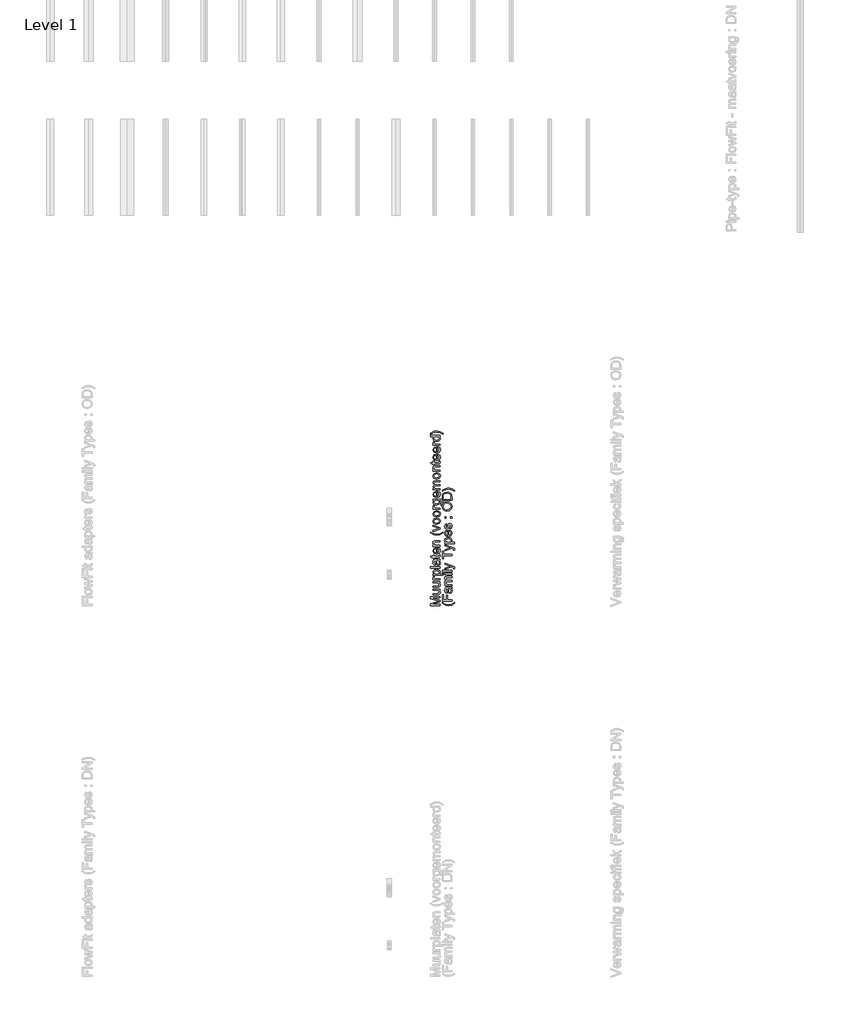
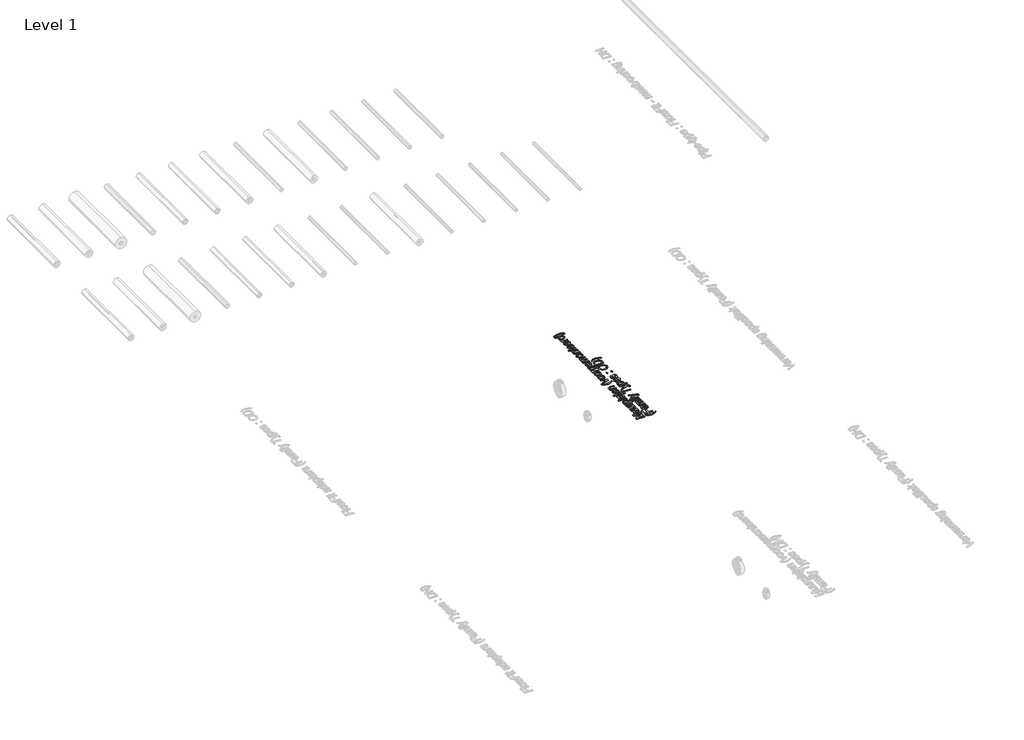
# One storey, part 8 of 11: 1 proxy.
"""IFC4 building model written with IfcOpenShell, lengths in millimetres."""

from ifc_helpers import new_model, si_unit, origin, origin_with_axes, place, context, project, spatial, polyline, outline, extrude, element, save

model = new_model("IFC4")

# Units and contexts
model_context = context("Model", 3, world=origin())
ifc_project = project(units=[si_unit("LENGTHUNIT", "METRE", prefix="MILLI")], contexts=[model_context])

# Site, building, storey
site = spatial("IfcSite", under=ifc_project)
building = spatial("IfcBuilding", under=site)
storey = spatial("IfcBuildingStorey", under=building, Name="Level 1", Elevation=0.0)

# Proxy
placement = place(None, origin())
element("IfcBuildingElementProxy", 1, Name="S", ObjectType="S", at=placement, inside=storey, context=model_context, shape_type="SweptSolid", body=[
    extrude(outline(polyline([(2565.0, 2058.4123634), (2514.7718449, 2058.4123634), (2514.7718449, 2069.2158314), (2550.1743556, 2079.4920018), (2557.5687837, 2081.5644037), (2549.5612189, 2083.8084838), (2514.7718449, 2093.912976), (2514.7718449, 2104.7164439), (2565.0, 2104.7164439), (2565.0, 2098.4379245), (2521.0503643, 2098.4379245), (2565.0, 2085.8195721), (2565.0, 2077.3092353), (2521.0503643, 2064.6908828), (2565.0, 2064.6908828), (2565.0, 2058.4123634)])), origin_with_axes(), (0.0, 0.0, 1.0), 3.0),
    extrude(outline(polyline([(2565.0, 2138.4634856), (2558.6601669, 2138.4634856), (2564.0036529, 2133.5461296), (2565.7848149, 2127.1327201), (2564.5340161, 2121.2282141), (2561.3947564, 2117.1569867), (2556.771706, 2115.2869199), (2550.9346451, 2114.9190379), (2528.1136986, 2114.9190379), (2528.1136986, 2121.1975573), (2547.9793264, 2121.1975573), (2554.3804731, 2121.577702), (2558.1390008, 2124.0609055), (2559.5062955, 2128.7391382), (2558.108344, 2133.9814566), (2554.3007653, 2137.4456787), (2547.304876, 2138.4634856), (2528.1136986, 2138.4634856), (2528.1136986, 2144.742005), (2565.0, 2144.742005), (2565.0, 2138.4634856)])), origin_with_axes(), (0.0, 0.0, 1.0), 3.0),
    extrude(outline(polyline([(2565.0, 2176.9194168), (2558.6601669, 2176.9194168), (2564.0036529, 2172.0020608), (2565.7848149, 2165.5886514), (2564.5340161, 2159.6841453), (2561.3947564, 2155.6129179), (2556.771706, 2153.7428511), (2550.9346451, 2153.3749691), (2528.1136986, 2153.3749691), (2528.1136986, 2159.6534885), (2547.9793264, 2159.6534885), (2554.3804731, 2160.0336332), (2558.1390008, 2162.5168367), (2559.5062955, 2167.1950694), (2558.108344, 2172.4373878), (2554.3007653, 2175.90161), (2547.304876, 2176.9194168), (2528.1136986, 2176.9194168), (2528.1136986, 2183.1979362), (2565.0, 2183.1979362), (2565.0, 2176.9194168)])), origin_with_axes(), (0.0, 0.0, 1.0), 3.0),
    extrude(outline(polyline([(2565.0, 2191.8309004), (2528.1136986, 2191.8309004), (2528.1136986, 2197.3246048), (2533.5706149, 2197.3246048), (2528.5428943, 2201.224154), (2527.3288837, 2205.1482286), (2529.2663955, 2211.4512734), (2534.8949901, 2209.3543461), (2533.6074031, 2204.9397621), (2534.8459391, 2201.3897009), (2538.2795044, 2199.1272266), (2545.6126189, 2198.1094197), (2565.0, 2198.1094197), (2565.0, 2191.8309004)])), origin_with_axes(), (0.0, 0.0, 1.0), 3.0),
    extrude(outline(polyline([(2579.1266686, 2215.375348), (2528.1136986, 2215.375348), (2528.1136986, 2221.6538674), (2534.2695907, 2221.6538674), (2529.0640604, 2225.994875), (2527.3288837, 2231.8564614), (2529.7569049, 2239.8149753), (2536.59951, 2245.0143741), (2546.2748064, 2246.767945), (2556.4467436, 2244.7875136), (2563.3751879, 2239.0362917), (2565.7848149, 2231.096172), (2564.1722655, 2225.6331243), (2560.0949067, 2221.6538674), (2579.1266686, 2221.6538674), (2579.1266686, 2215.375348)]), holes=[polyline([(2546.8511549, 2221.6538674), (2556.4160868, 2224.3700628), (2559.5062955, 2230.9612819), (2556.3057222, 2237.6873911), (2546.385171, 2240.4894256), (2536.7957137, 2237.7548361), (2533.6074031, 2231.2187993), (2536.9980488, 2224.5540038), (2546.8511549, 2221.6538674)])]), origin_with_axes(), (0.0, 0.0, 1.0), 3.0),
    extrude(outline(polyline([(2565.0, 2253.8312793), (2514.7718449, 2253.8312793), (2514.7718449, 2260.1097987), (2565.0, 2260.1097987), (2565.0, 2253.8312793)])), origin_with_axes(), (0.0, 0.0, 1.0), 3.0),
    extrude(outline(polyline([(2560.2911105, 2293.0720254), (2564.5462789, 2286.9835784), (2565.7848149, 2280.2574693), (2562.8049708, 2271.1401271), (2555.1898135, 2267.9579479), (2550.2234065, 2269.1596957), (2546.618163, 2272.3173495), (2544.5580238, 2276.7135394), (2543.6137933, 2282.1459302), (2541.4555523, 2293.0352372), (2535.4222876, 2291.34298), (2533.6074031, 2284.4022731), (2534.8152823, 2278.0501773), (2539.1011075, 2275.0212822), (2538.3162926, 2268.7427628), (2532.184926, 2271.4589582), (2528.5919452, 2276.9281372), (2527.3288837, 2285.2116135), (2528.4447924, 2292.8206394), (2531.2468269, 2297.1187274), (2535.5081267, 2299.0439765), (2541.0018312, 2299.3505448), (2548.8131922, 2299.3505448), (2559.7208934, 2299.6693759), (2565.0, 2300.9201747), (2565.0, 2294.6416553), (2560.2911105, 2293.0720254)]), holes=[polyline([(2547.7340717, 2293.0720254), (2549.6593208, 2282.9430078), (2550.6771277, 2277.5412739), (2552.3325966, 2275.0948586), (2554.7483551, 2274.2364673), (2558.1451322, 2276.1065341), (2559.5062955, 2281.5941072), (2558.0041107, 2287.946203), (2554.3682103, 2292.0419558), (2549.512168, 2293.0352372), (2547.7340717, 2293.0720254)])]), origin_with_axes(), (0.0, 0.0, 1.0), 3.0),
    extrude(outline(polyline([(2559.7638129, 2321.3253627), (2565.183941, 2322.1101776), (2565.7848149, 2317.4135508), (2564.7424826, 2312.1528382), (2562.0078931, 2309.5286133), (2554.8832451, 2308.7683239), (2534.392218, 2308.7683239), (2534.392218, 2304.0594343), (2528.1136986, 2304.0594343), (2528.1136986, 2308.7683239), (2519.1496407, 2308.7683239), (2515.458558, 2315.0468433), (2528.1136986, 2315.0468433), (2528.1136986, 2321.3253627), (2534.392218, 2321.3253627), (2534.392218, 2315.0468433), (2554.6993041, 2315.0468433), (2557.9366657, 2315.3779371), (2559.5062955, 2318.5907732), (2559.7638129, 2321.3253627)])), origin_with_axes(), (0.0, 0.0, 1.0), 3.0),
    extrude(outline(polyline([(2554.0125911, 2353.4291981), (2554.797406, 2359.5850902), (2562.9030726, 2353.8277369), (2565.7848149, 2343.1039768), (2560.8122766, 2330.0686914), (2546.8634176, 2325.2494373), (2532.4547062, 2330.1177423), (2527.3288837, 2342.7483575), (2532.4424434, 2355.017222), (2546.8266294, 2359.7812939), (2548.5188866, 2359.7445057), (2548.5188866, 2331.5279567), (2556.6736042, 2335.1393316), (2559.5062955, 2343.2266041), (2558.1941831, 2349.3824962), (2554.0125911, 2353.4291981)]), holes=[polyline([(2542.2403672, 2331.5279567), (2542.2403672, 2353.5027745), (2536.550459, 2350.9889142), (2533.6074031, 2342.723832), (2535.9557165, 2334.9921788), (2542.2403672, 2331.5279567)])]), origin_with_axes(), (0.0, 0.0, 1.0), 3.0),
    extrude(outline(polyline([(2565.0, 2366.0598133), (2528.1136986, 2366.0598133), (2528.1136986, 2372.3383327), (2533.2640465, 2372.3383327), (2528.8126744, 2377.1391927), (2527.3288837, 2383.6936236), (2528.5245002, 2389.6226551), (2531.6637599, 2393.669357), (2536.2806789, 2395.5516865), (2542.3507318, 2395.8827803), (2565.0, 2395.8827803), (2565.0, 2389.604261), (2543.1968604, 2389.604261), (2537.6418423, 2388.8807597), (2534.7049177, 2386.3239798), (2533.6074031, 2382.0136291), (2536.0722124, 2375.2016808), (2545.4286779, 2372.3383327), (2565.0, 2372.3383327), (2565.0, 2366.0598133)])), origin_with_axes(), (0.0, 0.0, 1.0), 3.0),
    extrude(outline(polyline([(2579.1266686, 2436.6931563), (2564.3991261, 2427.7781493), (2546.9124686, 2424.1361176), (2531.6453658, 2426.8584443), (2514.7718449, 2436.6931563), (2514.7718449, 2441.4020459), (2524.7169215, 2435.5281967), (2534.3554298, 2431.9965295), (2546.9492568, 2430.414637), (2563.0440941, 2433.1614892), (2579.1266686, 2441.4020459), (2579.1266686, 2436.6931563)])), origin_with_axes(), (0.0, 0.0, 1.0), 3.0),
    extrude(outline(polyline([(2565.0, 2456.7304623), (2528.1136986, 2443.7564907), (2528.1136986, 2450.402892), (2550.2111438, 2458.263304), (2557.6423601, 2460.6300115), (2550.6280767, 2462.9476681), (2528.1136986, 2470.857131), (2528.1136986, 2477.5035323), (2565.0, 2464.6889762), (2565.0, 2456.7304623)])), origin_with_axes(), (0.0, 0.0, 1.0), 3.0),
    extrude(outline(polyline([(2546.5568493, 2481.427607), (2537.6633021, 2482.7857047), (2531.4123738, 2486.8599978), (2527.3288837, 2497.9209831), (2532.301422, 2509.7851774), (2546.0418145, 2514.3898337), (2557.2131644, 2512.35422), (2563.5346034, 2506.4251885), (2565.7848149, 2497.9209831), (2560.8306707, 2485.9832123), (2546.5568493, 2481.427607)]), holes=[polyline([(2546.5445866, 2487.7061263), (2556.2750653, 2490.6123941), (2559.5062955, 2497.9209831), (2556.2566712, 2505.2050466), (2546.3483828, 2508.1113143), (2536.8386333, 2505.1866525), (2533.6074031, 2497.9209831), (2536.8263705, 2490.6123941), (2546.5445866, 2487.7061263)])]), origin_with_axes(), (0.0, 0.0, 1.0), 3.0),
    extrude(outline(polyline([(2546.5568493, 2519.8835382), (2537.6633021, 2521.2416359), (2531.4123738, 2525.315929), (2527.3288837, 2536.3769143), (2532.301422, 2548.2411086), (2546.0418145, 2552.845765), (2557.2131644, 2550.8101512), (2563.5346034, 2544.8811198), (2565.7848149, 2536.3769143), (2560.8306707, 2524.4391436), (2546.5568493, 2519.8835382)]), holes=[polyline([(2546.5445866, 2526.1620576), (2556.2750653, 2529.0683253), (2559.5062955, 2536.3769143), (2556.2566712, 2543.6609778), (2546.3483828, 2546.5672456), (2536.8386333, 2543.6425837), (2533.6074031, 2536.3769143), (2536.8263705, 2529.0683253), (2546.5445866, 2526.1620576)])]), origin_with_axes(), (0.0, 0.0, 1.0), 3.0),
    extrude(outline(polyline([(2565.0, 2559.9090993), (2528.1136986, 2559.9090993), (2528.1136986, 2565.4028037), (2533.5706149, 2565.4028037), (2528.5428943, 2569.3023529), (2527.3288837, 2573.2264275), (2529.2663955, 2579.5294723), (2534.8949901, 2577.432545), (2533.6074031, 2573.017961), (2534.8459391, 2569.4678998), (2538.2795044, 2567.2054255), (2545.6126189, 2566.1876186), (2565.0, 2566.1876186), (2565.0, 2559.9090993)])), origin_with_axes(), (0.0, 0.0, 1.0), 3.0),
    extrude(outline(polyline([(2568.1392597, 2581.8839171), (2568.9240746, 2588.1624365), (2572.2350126, 2590.1980502), (2573.6329642, 2596.2926286), (2572.0510716, 2602.7183008), (2567.6119622, 2605.7839841), (2560.2911105, 2606.2131797), (2565.0, 2596.4029932), (2563.6296396, 2589.9298029), (2559.5185583, 2585.1028846), (2546.3729083, 2581.0991022), (2536.6424295, 2582.8955926), (2529.7569049, 2588.0949915), (2527.3288837, 2596.0964249), (2532.8225882, 2606.2131797), (2528.1136986, 2606.2131797), (2528.1136986, 2612.4916991), (2559.9600167, 2612.4916991), (2572.1553048, 2610.7749165), (2577.8268189, 2605.3363943), (2579.9114835, 2596.1700013), (2576.9745589, 2585.728284), (2568.1392597, 2581.8839171)]), holes=[polyline([(2545.9437126, 2587.3776216), (2555.6619287, 2590.0570288), (2558.7214806, 2596.7831379), (2555.6803228, 2603.4969843), (2546.1276536, 2606.2131797), (2536.7650569, 2603.4172766), (2533.6074031, 2596.685036), (2536.7160059, 2590.093817), (2545.9437126, 2587.3776216)])]), origin_with_axes(), (0.0, 0.0, 1.0), 3.0),
    extrude(outline(polyline([(2554.0125911, 2647.7347942), (2554.797406, 2653.8906863), (2562.9030726, 2648.1333331), (2565.7848149, 2637.4095729), (2560.8122766, 2624.3742875), (2546.8634176, 2619.5550334), (2532.4547062, 2624.4233385), (2527.3288837, 2637.0539536), (2532.4424434, 2649.3228182), (2546.8266294, 2654.08689), (2548.5188866, 2654.0501018), (2548.5188866, 2625.8335528), (2556.6736042, 2629.4449277), (2559.5062955, 2637.5322002), (2558.1941831, 2643.6880923), (2554.0125911, 2647.7347942)]), holes=[polyline([(2542.2403672, 2625.8335528), (2542.2403672, 2647.8083706), (2536.550459, 2645.2945103), (2533.6074031, 2637.0294282), (2535.9557165, 2629.2977749), (2542.2403672, 2625.8335528)])]), origin_with_axes(), (0.0, 0.0, 1.0), 3.0),
    extrude(outline(polyline([(2565.0, 2660.3654094), (2528.1136986, 2660.3654094), (2528.1136986, 2666.6439288), (2534.1837515, 2666.6439288), (2529.2112132, 2670.9604109), (2527.3288837, 2677.1040402), (2529.2480014, 2683.3948223), (2534.6252099, 2686.8529131), (2529.1529653, 2691.751875), (2527.3288837, 2697.9384239), (2530.3639102, 2706.1483237), (2539.7142442, 2709.0239346), (2565.0, 2709.0239346), (2565.0, 2702.7454153), (2542.4120455, 2702.7454153), (2537.1697271, 2702.1629354), (2534.5884217, 2700.0537453), (2533.6074031, 2696.4668959), (2536.1212634, 2690.2926097), (2544.1778791, 2687.8339317), (2565.0, 2687.8339317), (2565.0, 2681.5554123), (2541.7130697, 2681.5554123), (2535.6307541, 2680.1022785), (2533.6074031, 2675.3382066), (2534.9563037, 2670.6906307), (2538.9049038, 2667.600422), (2546.3974338, 2666.6439288), (2565.0, 2666.6439288), (2565.0, 2660.3654094)])), origin_with_axes(), (0.0, 0.0, 1.0), 3.0),
    extrude(outline(polyline([(2546.5568493, 2716.8720839), (2537.6633021, 2718.2301816), (2531.4123738, 2722.3044747), (2527.3288837, 2733.36546), (2532.301422, 2745.2296543), (2546.0418145, 2749.8343106), (2557.2131644, 2747.7986969), (2563.5346034, 2741.8696654), (2565.7848149, 2733.36546), (2560.8306707, 2721.4276892), (2546.5568493, 2716.8720839)]), holes=[polyline([(2546.5445866, 2723.1506033), (2556.2750653, 2726.056871), (2559.5062955, 2733.36546), (2556.2566712, 2740.6495235), (2546.3483828, 2743.5557913), (2536.8386333, 2740.6311294), (2533.6074031, 2733.36546), (2536.8263705, 2726.056871), (2546.5445866, 2723.1506033)])]), origin_with_axes(), (0.0, 0.0, 1.0), 3.0),
    extrude(outline(polyline([(2565.0, 2756.8976449), (2528.1136986, 2756.8976449), (2528.1136986, 2763.1761643), (2533.2640465, 2763.1761643), (2528.8126744, 2767.9770244), (2527.3288837, 2774.5314552), (2528.5245002, 2780.4604867), (2531.6637599, 2784.5071887), (2536.2806789, 2786.3895182), (2542.3507318, 2786.720612), (2565.0, 2786.720612), (2565.0, 2780.4420926), (2543.1968604, 2780.4420926), (2537.6418423, 2779.7185914), (2534.7049177, 2777.1618115), (2533.6074031, 2772.8514608), (2536.0722124, 2766.0395125), (2545.4286779, 2763.1761643), (2565.0, 2763.1761643), (2565.0, 2756.8976449)])), origin_with_axes(), (0.0, 0.0, 1.0), 3.0),
    extrude(outline(polyline([(2559.7638129, 2808.6954299), (2565.183941, 2809.4802448), (2565.7848149, 2804.783618), (2564.7424826, 2799.5229055), (2562.0078931, 2796.8986806), (2554.8832451, 2796.1383911), (2534.392218, 2796.1383911), (2534.392218, 2791.4295016), (2528.1136986, 2791.4295016), (2528.1136986, 2796.1383911), (2519.1496407, 2796.1383911), (2515.458558, 2802.4169105), (2528.1136986, 2802.4169105), (2528.1136986, 2808.6954299), (2534.392218, 2808.6954299), (2534.392218, 2802.4169105), (2554.6993041, 2802.4169105), (2557.9366657, 2802.7480043), (2559.5062955, 2805.9608404), (2559.7638129, 2808.6954299)])), origin_with_axes(), (0.0, 0.0, 1.0), 3.0),
    extrude(outline(polyline([(2554.0125911, 2840.7992653), (2554.797406, 2846.9551574), (2562.9030726, 2841.1978041), (2565.7848149, 2830.474044), (2560.8122766, 2817.4387586), (2546.8634176, 2812.6195045), (2532.4547062, 2817.4878096), (2527.3288837, 2830.1184247), (2532.4424434, 2842.3872893), (2546.8266294, 2847.1513611), (2548.5188866, 2847.1145729), (2548.5188866, 2818.8980239), (2556.6736042, 2822.5093988), (2559.5062955, 2830.5966713), (2558.1941831, 2836.7525634), (2554.0125911, 2840.7992653)]), holes=[polyline([(2542.2403672, 2818.8980239), (2542.2403672, 2840.8728417), (2536.550459, 2838.3589814), (2533.6074031, 2830.0938993), (2535.9557165, 2822.362246), (2542.2403672, 2818.8980239)])]), origin_with_axes(), (0.0, 0.0, 1.0), 3.0),
    extrude(outline(polyline([(2554.0125911, 2879.2551965), (2554.797406, 2885.4110886), (2562.9030726, 2879.6537354), (2565.7848149, 2868.9299752), (2560.8122766, 2855.8946898), (2546.8634176, 2851.0754357), (2532.4547062, 2855.9437408), (2527.3288837, 2868.5743559), (2532.4424434, 2880.8432205), (2546.8266294, 2885.6072923), (2548.5188866, 2885.5705041), (2548.5188866, 2857.3539551), (2556.6736042, 2860.96533), (2559.5062955, 2869.0526025), (2558.1941831, 2875.2084946), (2554.0125911, 2879.2551965)]), holes=[polyline([(2542.2403672, 2857.3539551), (2542.2403672, 2879.3287729), (2536.550459, 2876.8149126), (2533.6074031, 2868.5498305), (2535.9557165, 2860.8181772), (2542.2403672, 2857.3539551)])]), origin_with_axes(), (0.0, 0.0, 1.0), 3.0),
    extrude(outline(polyline([(2565.0, 2891.8858117), (2528.1136986, 2891.8858117), (2528.1136986, 2897.3795162), (2533.5706149, 2897.3795162), (2528.5428943, 2901.2790653), (2527.3288837, 2905.2031399), (2529.2663955, 2911.5061848), (2534.8949901, 2909.4092574), (2533.6074031, 2904.9946735), (2534.8459391, 2901.4446122), (2538.2795044, 2899.1821379), (2545.6126189, 2898.1643311), (2565.0, 2898.1643311), (2565.0, 2891.8858117)])), origin_with_axes(), (0.0, 0.0, 1.0), 3.0),
    extrude(outline(polyline([(2565.0, 2938.1898922), (2559.0770999, 2938.1898922), (2564.1078862, 2934.0358913), (2565.7848149, 2928.2938665), (2563.3567938, 2920.5192937), (2556.5816337, 2915.0255892), (2546.5936375, 2913.0758146), (2536.59951, 2914.872305), (2529.7201167, 2920.2556449), (2527.3288837, 2928.269341), (2529.039535, 2934.0573511), (2533.4847757, 2938.1898922), (2514.7718449, 2938.1898922), (2514.7718449, 2944.4684116), (2565.0, 2944.4684116), (2565.0, 2938.1898922)]), holes=[polyline([(2546.569112, 2919.354334), (2556.2873281, 2922.1870254), (2559.5062955, 2928.870215), (2556.4344809, 2935.4736968), (2547.0473586, 2938.1898922), (2536.8570274, 2935.4246458), (2533.6074031, 2928.6126976), (2536.7282687, 2922.0030844), (2546.569112, 2919.354334)])]), origin_with_axes(), (0.0, 0.0, 1.0), 3.0),
    extrude(outline(polyline([(2579.1266686, 2955.4558205), (2579.1266686, 2950.7469309), (2563.0440941, 2958.9874876), (2546.9492568, 2961.7343399), (2534.4657944, 2960.1524473), (2524.8150234, 2956.6575683), (2514.7718449, 2950.7469309), (2514.7718449, 2955.4558205), (2531.6453658, 2965.2905325), (2546.9124686, 2968.0128592), (2564.3991261, 2964.3524334), (2579.1266686, 2955.4558205)])), origin_with_axes(), (0.0, 0.0, 1.0), 3.0),
    extrude(outline(polyline([(2640.1140775, 2070.1845873), (2625.386535, 2061.2695803), (2607.8998775, 2057.6275485), (2592.6327747, 2060.3498753), (2575.7592538, 2070.1845873), (2575.7592538, 2074.8934768), (2585.7043305, 2069.0196276), (2595.3428387, 2065.4879605), (2607.9366657, 2063.9060679), (2624.031503, 2066.6529201), (2640.1140775, 2074.8934768), (2640.1140775, 2070.1845873)])), origin_with_axes(), (0.0, 0.0, 1.0), 3.0),
    extrude(outline(polyline([(2625.9874089, 2081.9568111), (2575.7592538, 2081.9568111), (2575.7592538, 2115.7038528), (2582.0377732, 2115.7038528), (2582.0377732, 2088.2353305), (2596.9492568, 2088.2353305), (2596.9492568, 2111.7797782), (2603.2277762, 2111.7797782), (2603.2277762, 2088.2353305), (2625.9874089, 2088.2353305), (2625.9874089, 2081.9568111)])), origin_with_axes(), (0.0, 0.0, 1.0), 3.0),
    extrude(outline(polyline([(2621.2785194, 2147.0964497), (2625.5336878, 2141.0080027), (2626.7722238, 2134.2818936), (2623.7923797, 2125.1645515), (2616.1772224, 2121.9823722), (2611.2108154, 2123.1841201), (2607.6055719, 2126.3417738), (2605.5454327, 2130.7379637), (2604.6012023, 2136.1703545), (2602.4429612, 2147.0596615), (2596.4096965, 2145.3674044), (2594.594812, 2138.4266974), (2595.8026912, 2132.0746016), (2600.0885165, 2129.0457065), (2599.3037015, 2122.7671871), (2593.172335, 2125.4833825), (2589.5793541, 2130.9525615), (2588.3162926, 2139.2360378), (2589.4322013, 2146.8450637), (2592.2342359, 2151.1431517), (2596.4955356, 2153.0684008), (2601.9892401, 2153.3749691), (2609.8006011, 2153.3749691), (2620.7083023, 2153.6938002), (2625.9874089, 2154.944599), (2625.9874089, 2148.6660796), (2621.2785194, 2147.0964497)]), holes=[polyline([(2608.7214806, 2147.0964497), (2610.6467297, 2136.9674321), (2611.6645366, 2131.5656982), (2613.3200056, 2129.1192829), (2615.735764, 2128.2608916), (2619.1325411, 2130.1309584), (2620.4937045, 2135.6185315), (2618.9915196, 2141.9706273), (2615.3556193, 2146.0663802), (2610.4995769, 2147.0596615), (2608.7214806, 2147.0964497)])]), origin_with_axes(), (0.0, 0.0, 1.0), 3.0),
    extrude(outline(polyline([(2625.9874089, 2162.0079333), (2589.1011075, 2162.0079333), (2589.1011075, 2168.2864527), (2595.1711605, 2168.2864527), (2590.1986222, 2172.6029347), (2588.3162926, 2178.7465641), (2590.2354104, 2185.0373462), (2595.6126189, 2188.4954369), (2590.1403742, 2193.3943988), (2588.3162926, 2199.5809477), (2591.3513191, 2207.7908476), (2600.7016531, 2210.6664585), (2625.9874089, 2210.6664585), (2625.9874089, 2204.3879391), (2603.3994544, 2204.3879391), (2598.157136, 2203.8054593), (2595.5758307, 2201.6962692), (2594.594812, 2198.1094197), (2597.1086723, 2191.9351336), (2605.165288, 2189.4764556), (2625.9874089, 2189.4764556), (2625.9874089, 2183.1979362), (2602.7004786, 2183.1979362), (2596.618163, 2181.7448023), (2594.594812, 2176.9807305), (2595.9437126, 2172.3331546), (2599.8923127, 2169.2429458), (2607.3848427, 2168.2864527), (2625.9874089, 2168.2864527), (2625.9874089, 2162.0079333)])), origin_with_axes(), (0.0, 0.0, 1.0), 3.0),
    extrude(outline(polyline([(2582.0377732, 2220.0842376), (2575.7592538, 2220.0842376), (2575.7592538, 2226.362757), (2582.0377732, 2226.362757), (2582.0377732, 2220.0842376)])), origin_with_axes(), (0.0, 0.0, 1.0), 3.0),
    extrude(outline(polyline([(2625.9874089, 2220.0842376), (2589.1011075, 2220.0842376), (2589.1011075, 2226.362757), (2625.9874089, 2226.362757), (2625.9874089, 2220.0842376)])), origin_with_axes(), (0.0, 0.0, 1.0), 3.0),
    extrude(outline(polyline([(2625.9874089, 2235.780536), (2575.7592538, 2235.780536), (2575.7592538, 2242.0590554), (2625.9874089, 2242.0590554), (2625.9874089, 2235.780536)])), origin_with_axes(), (0.0, 0.0, 1.0), 3.0),
    extrude(outline(polyline([(2640.1140775, 2251.4768345), (2634.0685501, 2250.6920196), (2634.6203731, 2253.8803302), (2633.9275287, 2256.8601744), (2631.9961482, 2258.6873216), (2627.3730978, 2260.4041043), (2625.8525189, 2260.8946136), (2589.1011075, 2247.5527599), (2589.1011075, 2254.1746358), (2609.5798719, 2261.2502328), (2617.7713777, 2263.7150422), (2610.5363651, 2266.1798516), (2589.1011075, 2273.4516523), (2589.1011075, 2280.0244773), (2626.8703257, 2267.1853957), (2635.0618315, 2263.8499323), (2639.4886781, 2260.2079005), (2640.8988925, 2255.31507), (2640.1140775, 2251.4768345)])), origin_with_axes(), (0.0, 0.0, 1.0), 3.0),
    extrude(outline(polyline([(2625.9874089, 2318.186103), (2582.0377732, 2318.186103), (2582.0377732, 2301.7049896), (2575.7592538, 2301.7049896), (2575.7592538, 2340.9457357), (2582.0377732, 2340.9457357), (2582.0377732, 2324.4646223), (2625.9874089, 2324.4646223), (2625.9874089, 2318.186103)])), origin_with_axes(), (0.0, 0.0, 1.0), 3.0),
    extrude(outline(polyline([(2640.1140775, 2347.2242551), (2634.0685501, 2346.4394402), (2634.6203731, 2349.6277508), (2633.9275287, 2352.607595), (2631.9961482, 2354.4347422), (2627.3730978, 2356.1515249), (2625.8525189, 2356.6420342), (2589.1011075, 2343.3001805), (2589.1011075, 2349.9220564), (2609.5798719, 2356.9976535), (2617.7713777, 2359.4624628), (2610.5363651, 2361.9272722), (2589.1011075, 2369.199073), (2589.1011075, 2375.7718979), (2626.8703257, 2362.9328163), (2635.0618315, 2359.5973529), (2639.4886781, 2355.9553211), (2640.8988925, 2351.0624906), (2640.1140775, 2347.2242551)])), origin_with_axes(), (0.0, 0.0, 1.0), 3.0),
    extrude(outline(polyline([(2640.1140775, 2380.9712968), (2589.1011075, 2380.9712968), (2589.1011075, 2387.2498162), (2595.2569996, 2387.2498162), (2590.0514694, 2391.5908237), (2588.3162926, 2397.4524102), (2590.7443138, 2405.410924), (2597.5869189, 2410.6103229), (2607.2622154, 2412.3638937), (2617.4341525, 2410.3834623), (2624.3625968, 2404.6322405), (2626.7722238, 2396.6921207), (2625.1596744, 2391.2290731), (2621.0823157, 2387.2498162), (2640.1140775, 2387.2498162), (2640.1140775, 2380.9712968)]), holes=[polyline([(2607.8385638, 2387.2498162), (2617.4034957, 2389.9660116), (2620.4937045, 2396.5572307), (2617.2931311, 2403.2833398), (2607.37258, 2406.0853743), (2597.7831226, 2403.3507848), (2594.594812, 2396.8147481), (2597.9854577, 2390.1499526), (2607.8385638, 2387.2498162)])]), origin_with_axes(), (0.0, 0.0, 1.0), 3.0),
    extrude(outline(polyline([(2615.0, 2445.2525441), (2615.7848149, 2451.4084361), (2623.8904816, 2445.6510829), (2626.7722238, 2434.9273228), (2621.7996855, 2421.8920374), (2607.8508266, 2417.0727833), (2593.4421151, 2421.9410883), (2588.3162926, 2434.5717035), (2593.4298523, 2446.840568), (2607.8140384, 2451.6046399), (2609.5062955, 2451.5678517), (2609.5062955, 2423.3513027), (2617.6610131, 2426.9626776), (2620.4937045, 2435.0499501), (2619.181592, 2441.2058422), (2615.0, 2445.2525441)]), holes=[polyline([(2603.2277762, 2423.3513027), (2603.2277762, 2445.3261205), (2597.537868, 2442.8122602), (2594.594812, 2434.547178), (2596.9431254, 2426.8155248), (2603.2277762, 2423.3513027)])]), origin_with_axes(), (0.0, 0.0, 1.0), 3.0),
    extrude(outline(polyline([(2615.0, 2455.5287145), (2614.2151851, 2461.8072339), (2618.8750237, 2464.7135016), (2620.4937045, 2471.3721658), (2619.0099137, 2477.7733125), (2615.5272975, 2479.8579771), (2612.7068689, 2477.7610497), (2610.9165099, 2471.2985894), (2607.8446952, 2461.8440221), (2604.2578457, 2457.7176124), (2599.1933369, 2456.3135294), (2594.5151042, 2457.4417009), (2590.9405175, 2460.5196469), (2589.0827134, 2464.5111665), (2588.3162926, 2469.9129005), (2589.5486973, 2477.5525833), (2592.8841607, 2482.4086256), (2598.5188866, 2484.5668666), (2599.3037015, 2478.2883473), (2595.8394794, 2475.9277711), (2594.594812, 2470.4034098), (2595.7842971, 2464.3946706), (2598.5556748, 2462.5920488), (2600.3828221, 2463.3400755), (2601.7685109, 2465.6822576), (2603.1051488, 2471.0901229), (2606.0604675, 2480.3055669), (2609.4081937, 2484.5852607), (2614.8651099, 2486.1364965), (2620.8738492, 2484.3154806), (2625.2332508, 2479.0608995), (2626.7722238, 2471.2863266), (2623.8046424, 2460.3357059), (2615.0, 2455.5287145)])), origin_with_axes(), (0.0, 0.0, 1.0), 3.0),
    extrude(outline(polyline([(2595.3796269, 2514.3898337), (2589.1011075, 2514.3898337), (2589.1011075, 2520.6683531), (2595.3796269, 2520.6683531), (2595.3796269, 2514.3898337)])), origin_with_axes(), (0.0, 0.0, 1.0), 3.0),
    extrude(outline(polyline([(2625.9874089, 2514.3898337), (2619.7088895, 2514.3898337), (2619.7088895, 2520.6683531), (2625.9874089, 2520.6683531), (2625.9874089, 2514.3898337)])), origin_with_axes(), (0.0, 0.0, 1.0), 3.0),
    extrude(outline(polyline([(2601.535519, 2550.4913202), (2590.4285484, 2552.1651833), (2582.0255105, 2557.1867725), (2576.7372068, 2564.8540464), (2574.9744389, 2574.4649635), (2578.2853769, 2586.9606886), (2587.519215, 2595.4465), (2600.9591705, 2598.3650305), (2614.5830671, 2595.2932158), (2623.6820151, 2586.5866753), (2626.7722238, 2574.4281753), (2623.3570527, 2561.7975602), (2614.0373754, 2553.3607997), (2601.535519, 2550.4913202)]), holes=[polyline([(2601.5968326, 2556.7698396), (2615.4414584, 2561.7914288), (2620.4937045, 2574.3913871), (2615.3924075, 2587.1017101), (2600.9101196, 2592.0865111), (2590.5481101, 2589.9527955), (2583.6871108, 2583.7171957), (2581.2529583, 2574.5017517), (2585.9434537, 2562.0060266), (2592.2020462, 2558.0788863), (2601.5968326, 2556.7698396)])]), origin_with_axes(), (0.0, 0.0, 1.0), 3.0),
    extrude(outline(polyline([(2625.9874089, 2606.9979946), (2575.7592538, 2606.9979946), (2575.7592538, 2624.3252366), (2576.4827551, 2633.2892946), (2580.0757359, 2640.6714599), (2588.6596491, 2646.6188855), (2600.6035513, 2648.5931856), (2610.7387002, 2647.2565476), (2618.0534206, 2643.8229824), (2622.6090259, 2639.2367202), (2625.1290176, 2633.2341123), (2625.9874089, 2625.1591025), (2625.9874089, 2606.9979946)]), holes=[polyline([(2619.7088895, 2613.276514), (2619.7088895, 2624.3865503), (2618.8014473, 2632.4676914), (2616.2385361, 2637.12753), (2610.0029362, 2640.9473714), (2600.5054494, 2642.3146662), (2588.6105982, 2639.635259), (2583.0433174, 2633.1176163), (2582.0377732, 2624.214872), (2582.0377732, 2613.276514), (2619.7088895, 2613.276514)])]), origin_with_axes(), (0.0, 0.0, 1.0), 3.0),
    extrude(outline(polyline([(2640.1140775, 2658.0109646), (2640.1140775, 2653.3020751), (2624.031503, 2661.5426318), (2607.9366657, 2664.289484), (2595.4532033, 2662.7075914), (2585.8024323, 2659.2127125), (2575.7592538, 2653.3020751), (2575.7592538, 2658.0109646), (2592.6327747, 2667.8456766), (2607.8998775, 2670.5680034), (2625.386535, 2666.9075776), (2640.1140775, 2658.0109646)])), origin_with_axes(), (0.0, 0.0, 1.0), 3.0),
])

save(model, "model.ifc")
